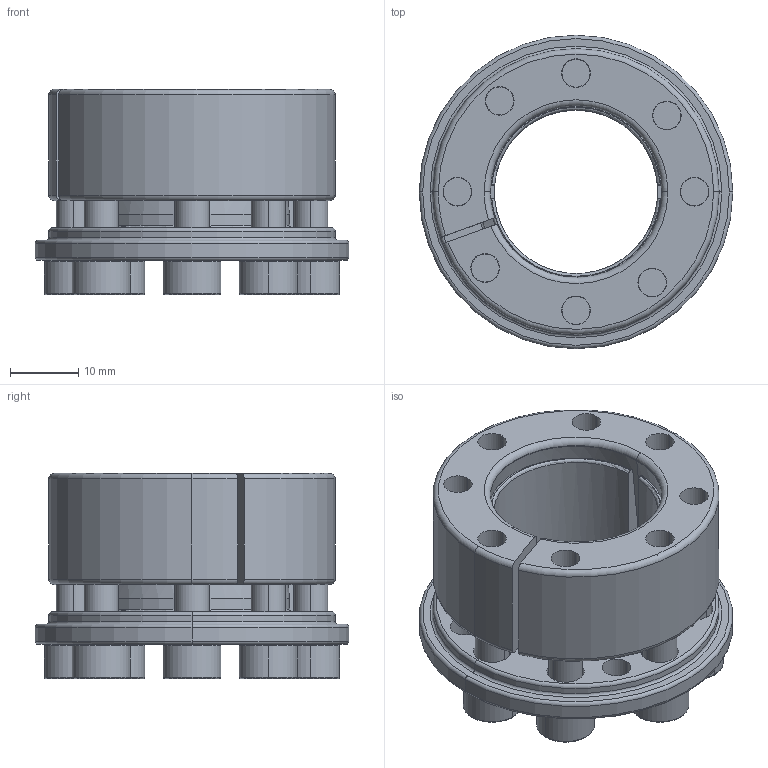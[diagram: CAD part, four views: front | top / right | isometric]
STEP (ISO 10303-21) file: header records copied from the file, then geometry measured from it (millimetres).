
FILE_DESCRIPTION (( 'STEP AP203' ), '1' );
FILE_NAME ('SAPL-A-24-42.STEP', '2013-07-22T07:42:24', ( 'MYCOM' ), ( '' ), 'SwSTEP 2.0', 'SolidWorks 2012', '' );
FILE_SCHEMA (( 'CONFIG_CONTROL_DESIGN' ));
Length unit declared in the file: millimetre
Products named in the file (1): SAPL-A-24-42
Bounding box: 46 x 46 x 30.1 mm (x, y, z)
Volume: 22330.3 mm3; surface area: 12808.9 mm2
Topology: 1 solids, 1 shells, 374 faces, 915 edges, 540 vertices
Faces by surface type: plane 135, cylinder 99, torus 79, cone 61
Entity records: 11172 total; most frequent: DIRECTION 2080, CARTESIAN_POINT 2069, ORIENTED_EDGE 1798, EDGE_CURVE 899, AXIS2_PLACEMENT_3D 856, VERTEX_POINT 540, CIRCLE 481, EDGE_LOOP 417
